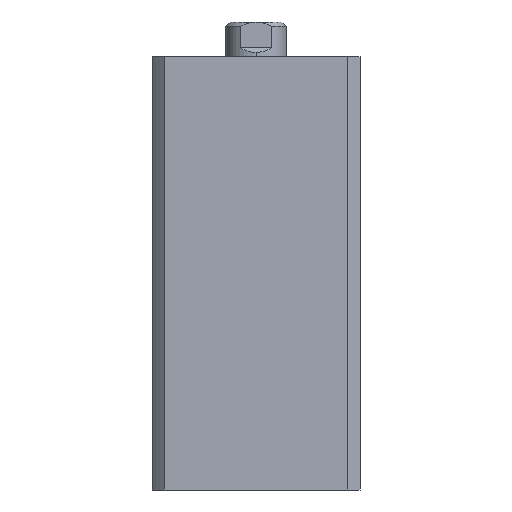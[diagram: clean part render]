
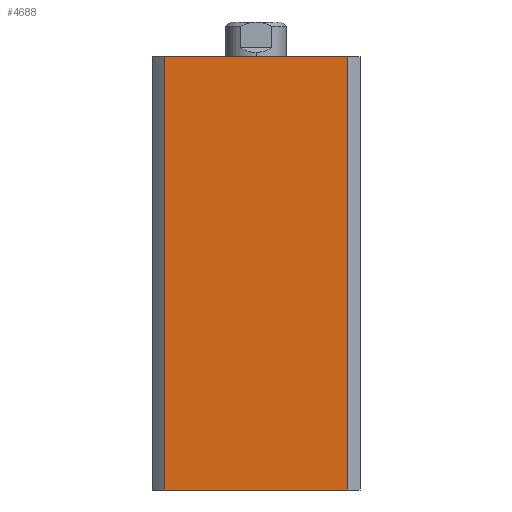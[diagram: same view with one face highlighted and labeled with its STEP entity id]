
A CAD part, left-side view. The second image highlights one B-rep face of the part: STEP entity #4688.
In plain terms, the highlighted planar face has unit normal (-1, 0, 0).
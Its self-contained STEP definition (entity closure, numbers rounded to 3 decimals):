
#8 = CARTESIAN_POINT ( 'NONE',  ( -24., 21.166, 100. ) ) ;
#11 = DIRECTION ( 'NONE',  ( 0., 0., -1. ) ) ;
#274 = LINE ( 'NONE', #8, #281 ) ;
#281 = VECTOR ( 'NONE', #11, 1000. ) ;
#533 = LINE ( 'NONE', #1726, #536 ) ;
#536 = VECTOR ( 'NONE', #1727, 1000. ) ;
#549 = LINE ( 'NONE', #1786, #558 ) ;
#558 = VECTOR ( 'NONE', #1787, 1000. ) ;
#564 = LINE ( 'NONE', #1816, #567 ) ;
#567 = VECTOR ( 'NONE', #1817, 1000. ) ;
#1274 = CARTESIAN_POINT ( 'NONE',  ( -24., 0., 100. ) ) ;
#1279 = PLANE ( 'NONE',  #3722 ) ;
#1282 = DIRECTION ( 'NONE',  ( 1., 0., 0. ) ) ;
#1283 = DIRECTION ( 'NONE',  ( 0., 0., -1. ) ) ;
#1726 = CARTESIAN_POINT ( 'NONE',  ( -24., 0., 100. ) ) ;
#1727 = DIRECTION ( 'NONE',  ( 0., -1., 0. ) ) ;
#1786 = CARTESIAN_POINT ( 'NONE',  ( -24., -21.166, 100. ) ) ;
#1787 = DIRECTION ( 'NONE',  ( 0., 0., -1. ) ) ;
#1816 = CARTESIAN_POINT ( 'NONE',  ( -24., 0., 0. ) ) ;
#1817 = DIRECTION ( 'NONE',  ( 0., -1., 0. ) ) ;
#1930 = VERTEX_POINT ( 'NONE', #3957 ) ;
#1933 = VERTEX_POINT ( 'NONE', #3951 ) ;
#2019 = EDGE_CURVE ( 'NONE', #3792, #5081, #274, .T. ) ;
#2284 = EDGE_CURVE ( 'NONE', #3792, #1933, #533, .T. ) ;
#2427 = CARTESIAN_POINT ( 'NONE',  ( -24., 21.166, 100. ) ) ;
#2978 = ORIENTED_EDGE ( 'NONE', *, *, #3472, .T. ) ;
#2979 = ORIENTED_EDGE ( 'NONE', *, *, #3465, .F. ) ;
#2980 = ORIENTED_EDGE ( 'NONE', *, *, #2284, .F. ) ;
#2981 = ORIENTED_EDGE ( 'NONE', *, *, #2019, .T. ) ;
#3465 = EDGE_CURVE ( 'NONE', #1933, #1930, #549, .T. ) ;
#3472 = EDGE_CURVE ( 'NONE', #5081, #1930, #564, .T. ) ;
#3722 = AXIS2_PLACEMENT_3D ( 'NONE', #1274, #1282, #1283 ) ;
#3792 = VERTEX_POINT ( 'NONE', #2427 ) ;
#3951 = CARTESIAN_POINT ( 'NONE',  ( -24., -21.166, 100. ) ) ;
#3957 = CARTESIAN_POINT ( 'NONE',  ( -24., -21.166, 0. ) ) ;
#4247 = EDGE_LOOP ( 'NONE', ( #2978, #2979, #2980, #2981 ) ) ;
#4383 = FACE_OUTER_BOUND ( 'NONE', #4247, .T. ) ;
#4688 = ADVANCED_FACE ( 'NONE', ( #4383 ), #1279, .F. ) ;
#4942 = CARTESIAN_POINT ( 'NONE',  ( -24., 21.166, 0. ) ) ;
#5081 = VERTEX_POINT ( 'NONE', #4942 ) ;
